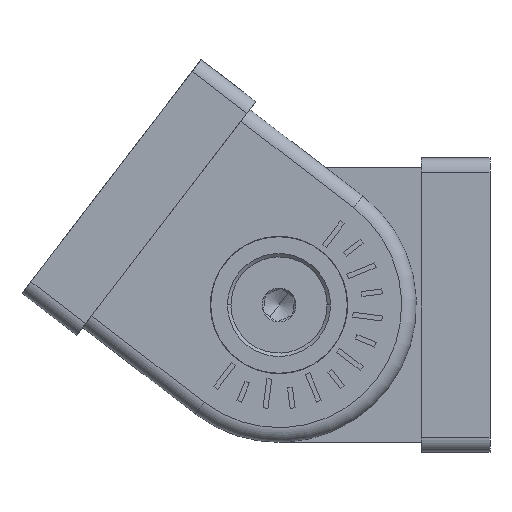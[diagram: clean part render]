
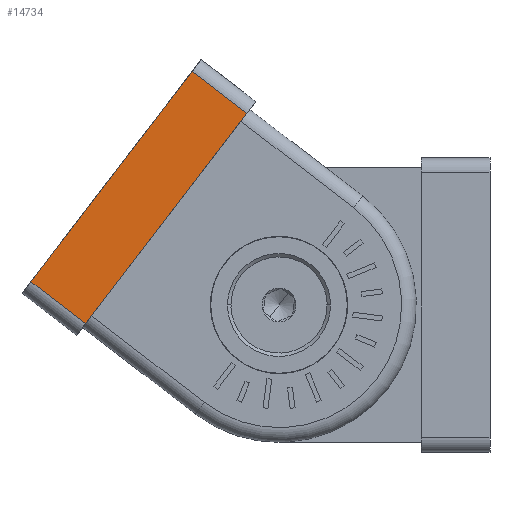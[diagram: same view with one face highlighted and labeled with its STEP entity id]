
A CAD part, left-side view. The second image highlights one B-rep face of the part: STEP entity #14734.
In plain terms, the highlighted planar face has unit normal (-1, 0, 0) as drawn and (1, 0, 0) by its records, which use the part's own axes.
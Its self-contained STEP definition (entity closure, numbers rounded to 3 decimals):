
#951 = EDGE_CURVE ( 'NONE', #3625, #3206, #8037, .T. ) ;
#959 = PLANE ( 'NONE',  #5207 ) ;
#1481 = VECTOR ( 'NONE', #14253, 1000. ) ;
#1804 = VECTOR ( 'NONE', #9392, 1000. ) ;
#1837 = DIRECTION ( 'NONE',  ( 0., 0., -1. ) ) ;
#2336 = CARTESIAN_POINT ( 'NONE',  ( 15., 0., -15. ) ) ;
#2350 = ORIENTED_EDGE ( 'NONE', *, *, #10176, .T. ) ;
#2639 = ORIENTED_EDGE ( 'NONE', *, *, #951, .F. ) ;
#3206 = VERTEX_POINT ( 'NONE', #8091 ) ;
#3625 = VERTEX_POINT ( 'NONE', #10787 ) ;
#4273 = LINE ( 'NONE', #9260, #1481 ) ;
#4404 = CARTESIAN_POINT ( 'NONE',  ( 15., 7., -13.5 ) ) ;
#5207 = AXIS2_PLACEMENT_3D ( 'NONE', #5943, #10951, #15906 ) ;
#5943 = CARTESIAN_POINT ( 'NONE',  ( 15., 7., -15. ) ) ;
#6126 = VECTOR ( 'NONE', #1837, 1000. ) ;
#7330 = DIRECTION ( 'NONE',  ( 0., 0., -1. ) ) ;
#7866 = VERTEX_POINT ( 'NONE', #10310 ) ;
#8037 = LINE ( 'NONE', #13034, #6126 ) ;
#8091 = CARTESIAN_POINT ( 'NONE',  ( 15., 7., -13.5 ) ) ;
#8760 = ORIENTED_EDGE ( 'NONE', *, *, #14550, .T. ) ;
#9260 = CARTESIAN_POINT ( 'NONE',  ( 15., 7., 13.5 ) ) ;
#9392 = DIRECTION ( 'NONE',  ( 0., 1., 0. ) ) ;
#9665 = EDGE_LOOP ( 'NONE', ( #14286, #8760, #2639, #2350 ) ) ;
#10176 = EDGE_CURVE ( 'NONE', #3625, #14369, #4273, .T. ) ;
#10310 = CARTESIAN_POINT ( 'NONE',  ( 15., 0., -13.5 ) ) ;
#10787 = CARTESIAN_POINT ( 'NONE',  ( 15., 7., 13.5 ) ) ;
#10951 = DIRECTION ( 'NONE',  ( -1., 0., 0. ) ) ;
#11896 = VECTOR ( 'NONE', #7330, 1000. ) ;
#12183 = FACE_OUTER_BOUND ( 'NONE', #9665, .T. ) ;
#13034 = CARTESIAN_POINT ( 'NONE',  ( 15., 7., -15. ) ) ;
#13549 = LINE ( 'NONE', #2336, #11896 ) ;
#14253 = DIRECTION ( 'NONE',  ( 0., -1., 0. ) ) ;
#14286 = ORIENTED_EDGE ( 'NONE', *, *, #16133, .T. ) ;
#14369 = VERTEX_POINT ( 'NONE', #14645 ) ;
#14550 = EDGE_CURVE ( 'NONE', #7866, #3206, #15596, .T. ) ;
#14645 = CARTESIAN_POINT ( 'NONE',  ( 15., 0., 13.5 ) ) ;
#14734 = ADVANCED_FACE ( 'NONE', ( #12183 ), #959, .F. ) ;
#15596 = LINE ( 'NONE', #4404, #1804 ) ;
#15906 = DIRECTION ( 'NONE',  ( 0., 0., 1. ) ) ;
#16133 = EDGE_CURVE ( 'NONE', #14369, #7866, #13549, .T. ) ;
